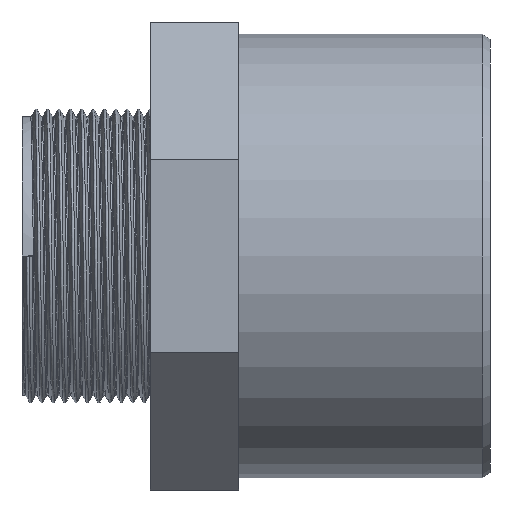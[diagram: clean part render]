
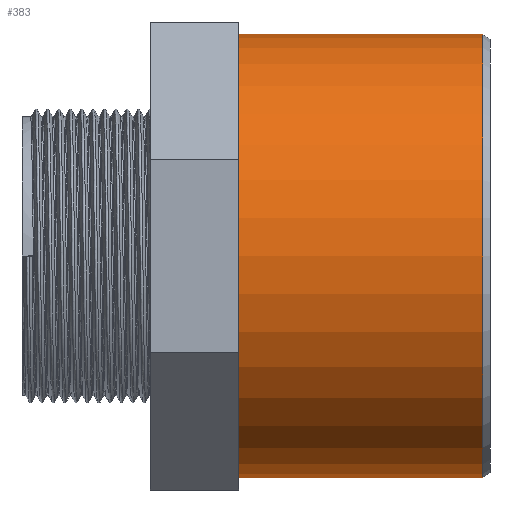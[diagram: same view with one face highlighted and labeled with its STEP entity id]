
A CAD part, left-side view. The second image highlights one B-rep face of the part: STEP entity #383.
In plain terms, the highlighted cylindrical face has radius 45 mm (diameter 90 mm), a full revolution.
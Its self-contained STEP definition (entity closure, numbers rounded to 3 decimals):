
#100=CYLINDRICAL_SURFACE('',#413,45.);
#106=FACE_BOUND('',#145,.T.);
#117=FACE_OUTER_BOUND('',#144,.T.);
#144=EDGE_LOOP('',(#281));
#145=EDGE_LOOP('',(#282));
#179=CIRCLE('',#411,45.);
#181=CIRCLE('',#414,45.);
#192=VERTEX_POINT('',#543);
#194=VERTEX_POINT('',#548);
#228=EDGE_CURVE('',#192,#192,#179,.T.);
#230=EDGE_CURVE('',#194,#194,#181,.T.);
#281=ORIENTED_EDGE('',*,*,#230,.F.);
#282=ORIENTED_EDGE('',*,*,#228,.F.);
#383=ADVANCED_FACE('',(#117,#106),#100,.T.);
#411=AXIS2_PLACEMENT_3D('',#544,#448,#449);
#413=AXIS2_PLACEMENT_3D('',#547,#452,#453);
#414=AXIS2_PLACEMENT_3D('',#549,#454,#455);
#448=DIRECTION('center_axis',(0.,-1.,0.));
#449=DIRECTION('ref_axis',(-1.,0.,0.));
#452=DIRECTION('center_axis',(0.,-1.,0.));
#453=DIRECTION('ref_axis',(-1.,0.,0.));
#454=DIRECTION('center_axis',(0.,1.,0.));
#455=DIRECTION('ref_axis',(-1.,0.,0.));
#543=CARTESIAN_POINT('',(45.,-58.5,0.));
#544=CARTESIAN_POINT('Origin',(0.,-58.5,0.));
#547=CARTESIAN_POINT('Origin',(0.,-9.,0.));
#548=CARTESIAN_POINT('',(45.,-9.,0.));
#549=CARTESIAN_POINT('Origin',(0.,-9.,0.));
